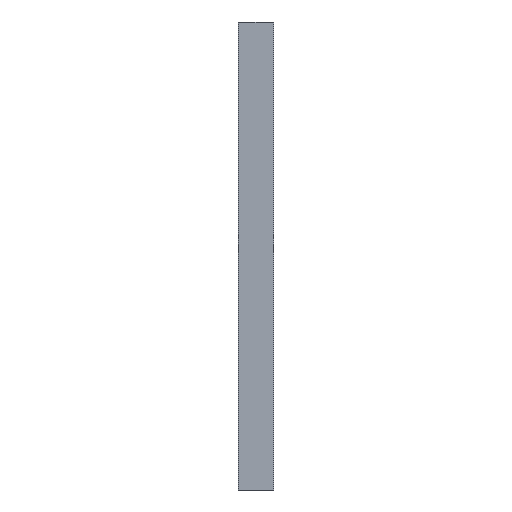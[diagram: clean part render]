
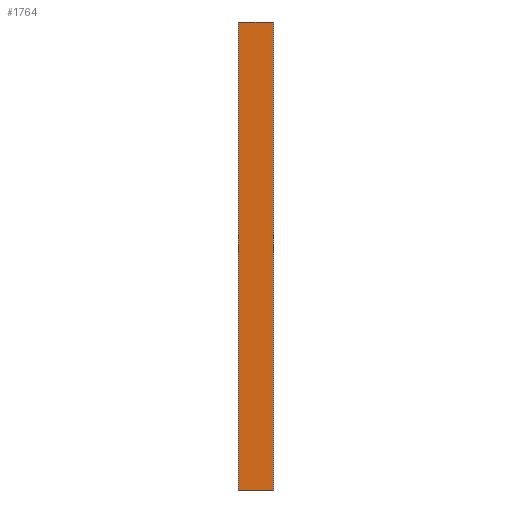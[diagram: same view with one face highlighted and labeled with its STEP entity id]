
A CAD part, front view. The second image highlights one B-rep face of the part: STEP entity #1764.
In plain terms, the highlighted planar face has unit normal (0, -1, 0).
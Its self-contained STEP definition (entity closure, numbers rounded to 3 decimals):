
#136=ORIENTED_EDGE('',*,*,#675,.F.);
#137=ORIENTED_EDGE('',*,*,#674,.F.);
#138=ORIENTED_EDGE('',*,*,#676,.T.);
#139=ORIENTED_EDGE('',*,*,#677,.T.);
#674=EDGE_CURVE('',#943,#942,#1122,.T.);
#675=EDGE_CURVE('',#942,#944,#1123,.T.);
#676=EDGE_CURVE('',#943,#945,#1124,.T.);
#677=EDGE_CURVE('',#945,#944,#1125,.T.);
#942=VERTEX_POINT('',#2571);
#943=VERTEX_POINT('',#2573);
#944=VERTEX_POINT('',#2577);
#945=VERTEX_POINT('',#2579);
#1122=LINE('',#2574,#1320);
#1123=LINE('',#2576,#1321);
#1124=LINE('',#2578,#1322);
#1125=LINE('',#2580,#1323);
#1320=VECTOR('',#2045,1000.);
#1321=VECTOR('',#2048,1000.);
#1322=VECTOR('',#2049,1000.);
#1323=VECTOR('',#2050,1000.);
#1516=EDGE_LOOP('',(#136,#137,#138,#139));
#1612=FACE_BOUND('',#1516,.T.);
#1707=PLANE('',#1871);
#1764=ADVANCED_FACE('',(#1612),#1707,.T.);
#1871=AXIS2_PLACEMENT_3D('',#2575,#2046,#2047);
#2045=DIRECTION('',(0.,0.,1.));
#2046=DIRECTION('',(0.,-1.,0.));
#2047=DIRECTION('',(0.,0.,-1.));
#2048=DIRECTION('',(1.,0.,0.));
#2049=DIRECTION('',(1.,0.,0.));
#2050=DIRECTION('',(0.,0.,1.));
#2571=CARTESIAN_POINT('',(-67.257,0.,0.));
#2573=CARTESIAN_POINT('',(-67.257,0.,-1800.));
#2574=CARTESIAN_POINT('',(-67.257,0.,-1800.));
#2575=CARTESIAN_POINT('',(-67.257,0.,-1800.));
#2576=CARTESIAN_POINT('',(-67.257,0.,0.));
#2577=CARTESIAN_POINT('',(67.257,0.,0.));
#2578=CARTESIAN_POINT('',(-67.257,0.,-1800.));
#2579=CARTESIAN_POINT('',(67.257,0.,-1800.));
#2580=CARTESIAN_POINT('',(67.257,0.,-1800.));
